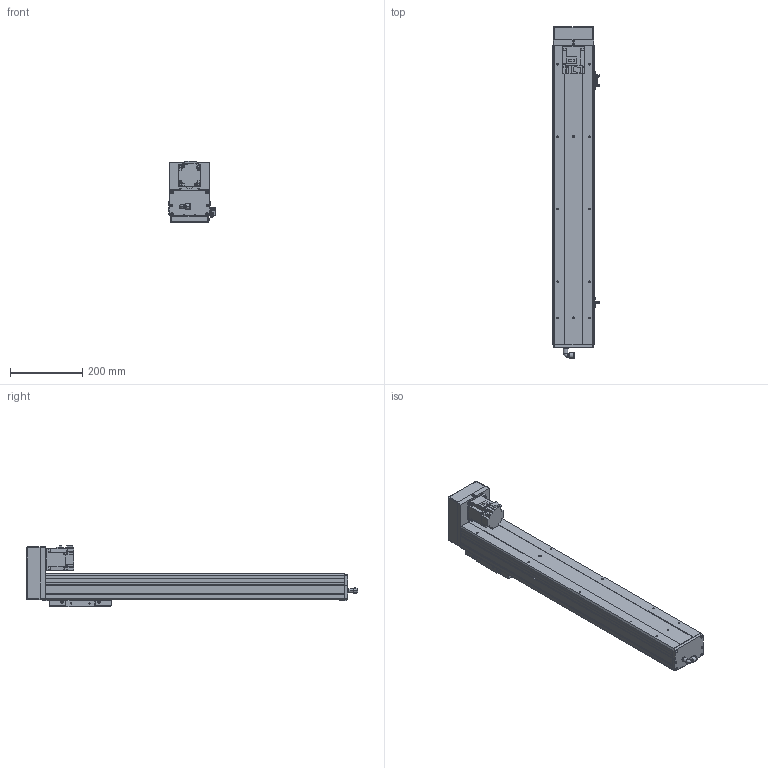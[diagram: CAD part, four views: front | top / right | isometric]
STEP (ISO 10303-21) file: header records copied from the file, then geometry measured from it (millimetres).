
FILE_DESCRIPTION (( 'STEP AP203' ), '1' );
FILE_NAME ('12.STEP', '2021-01-06T03:24:18', ( '' ), ( '' ), 'SwSTEP 2.0', 'SolidWorks 2016', '' );
FILE_SCHEMA (( 'CONFIG_CONTROL_DESIGN' ));
Length unit declared in the file: millimetre
Products named in the file (9): 12; BCH11-BM-04; BCH11-BM-M20; BCH11-BM-02; BCH11-BM-肮祭謫欶; BCH11-BM-01; BCH11-BM-HZ-01; BCH11-BL-BR-BM-菁釱; BCH11-BM-10
Assembly tree (11 placements, depth 2):
  12
    BCH11-BL-BR-BM-菁釱
    BCH11-BM-01
    BCH11-BM-02  x2
    BCH11-BM-04  x3
    BCH11-BM-M20
    BCH11-BM-肮祭謫欶
    BCH11-BM-HZ-01
    BCH11-BM-10
Bounding box: 127.7 x 916.58 x 168.6 mm (x, y, z)
Volume: 2714291.2 mm3; surface area: 873441.2 mm2
Topology: 25 solids, 25 shells, 1422 faces, 3547 edges, 2230 vertices
Faces by surface type: plane 902, cylinder 384, cone 84, bspline 30, sphere 20, torus 2
Entity records: 35750 total; most frequent: CARTESIAN_POINT 6943, DIRECTION 5825, ORIENTED_EDGE 5610, EDGE_CURVE 2805, LINE 1965, VECTOR 1965, AXIS2_PLACEMENT_3D 1930, VERTEX_POINT 1778
